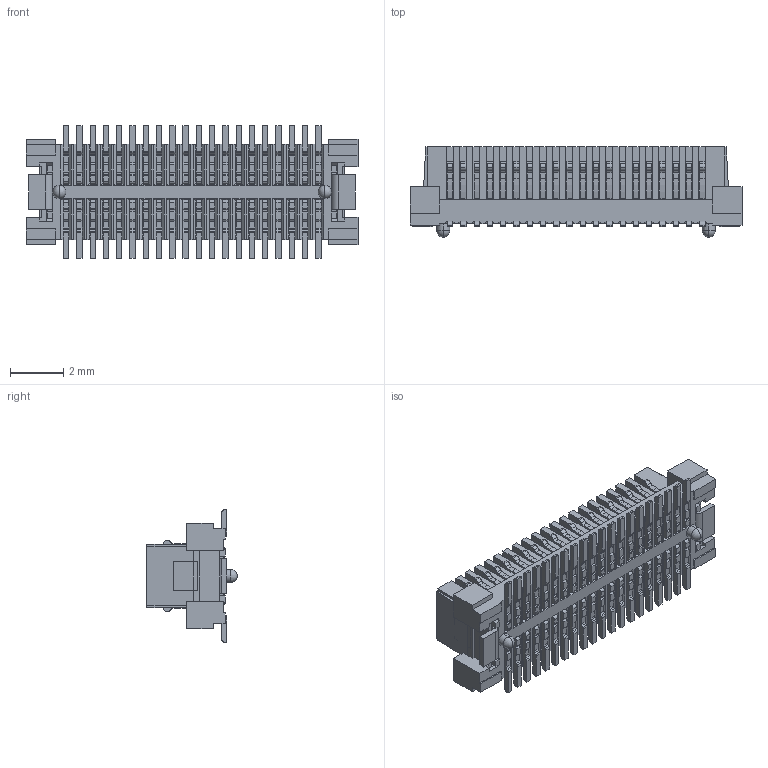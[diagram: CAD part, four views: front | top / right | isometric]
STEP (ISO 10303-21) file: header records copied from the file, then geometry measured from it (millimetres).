
FILE_DESCRIPTION (( 'STEP AP203' ), '1' );
FILE_NAME ('CBRB040PC2FP1R0-NH.STEP', '2018-08-27T04:06:11', ( '' ), ( '' ), 'SwSTEP 2.0', 'SolidWorks 2017', '' );
FILE_SCHEMA (( 'CONFIG_CONTROL_DESIGN' ));
Length unit declared in the file: millimetre
Products named in the file (4): CBRB040PC2FP1R0-NH; CBRB-PC-BASE 50PN_40; CBRB-p-T-4; CBRB-TAB
Assembly tree (23 placements, depth 2):
  CBRB040PC2FP1R0-NH
    CBRB-PC-BASE 50PN_40
    CBRB-p-T-4  x20
    CBRB-TAB  x2
Bounding box: 12.5 x 3.4 x 5 mm (x, y, z)
Volume: 89.8 mm3; surface area: 618.9 mm2
Topology: 43 solids, 45 shells, 2777 faces, 8035 edges, 5272 vertices
Faces by surface type: plane 1752, cylinder 994, bspline 27, torus 4
Entity records: 36527 total; most frequent: CARTESIAN_POINT 7939, ORIENTED_EDGE 6078, DIRECTION 5365, EDGE_CURVE 3039, LINE 2661, VECTOR 2661, VERTEX_POINT 1942, AXIS2_PLACEMENT_3D 1352
